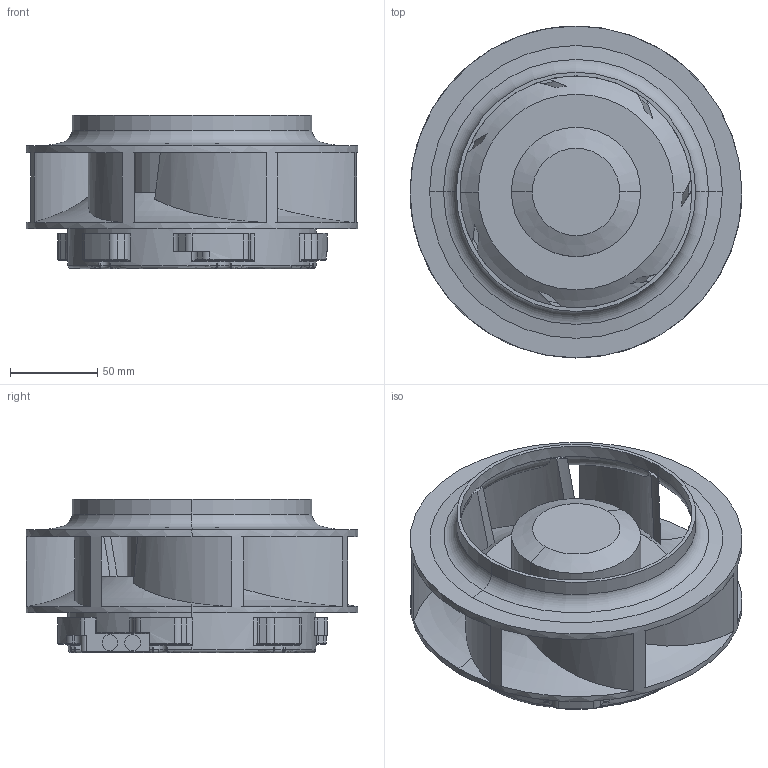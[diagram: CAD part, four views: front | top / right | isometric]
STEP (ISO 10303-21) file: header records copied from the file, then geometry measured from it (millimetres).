
FILE_DESCRIPTION (( 'STEP AP214' ), '1' );
FILE_NAME ('ƒ³190x88_9AD.STEP', '2021-01-15T09:19:18', ( '' ), ( '' ), 'SwSTEP 2.0', 'SolidWorks 2019', '' );
FILE_SCHEMA (( 'AUTOMOTIVE_DESIGN' ));
Length unit declared in the file: millimetre
Products named in the file (1): Φ190x88_9AD
Bounding box: 190 x 190 x 88 mm (x, y, z)
Volume: 947144.7 mm3; surface area: 168732 mm2
Topology: 1 solids, 1 shells, 391 faces, 992 edges, 584 vertices
Faces by surface type: cylinder 152, torus 134, plane 60, bspline 24, cone 20, sphere 1
Entity records: 13845 total; most frequent: CARTESIAN_POINT 4414, DIRECTION 2152, ORIENTED_EDGE 1938, EDGE_CURVE 969, AXIS2_PLACEMENT_3D 946, VERTEX_POINT 584, CIRCLE 578, EDGE_LOOP 409
